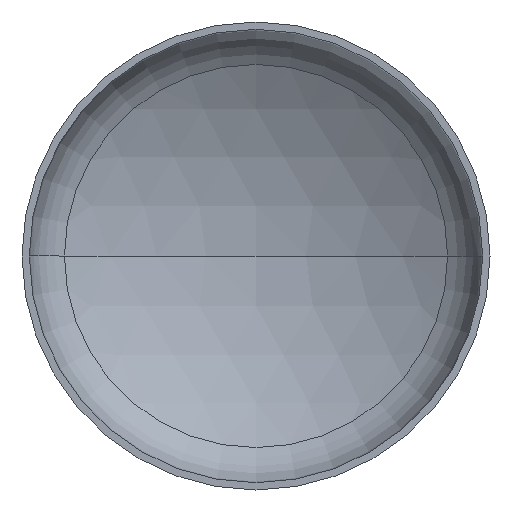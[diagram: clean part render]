
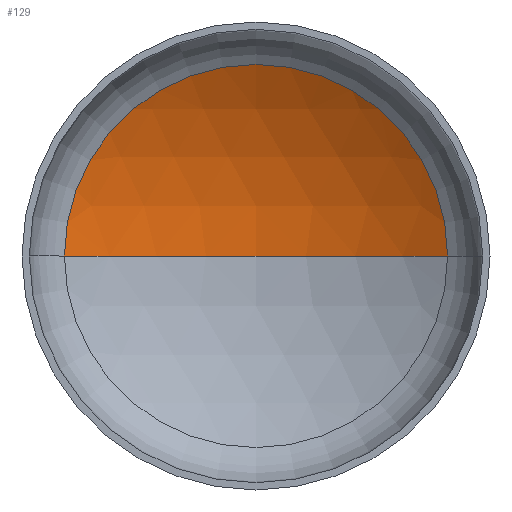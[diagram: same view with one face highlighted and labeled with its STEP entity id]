
A CAD part, front view. The second image highlights one B-rep face of the part: STEP entity #129.
In plain terms, the highlighted spherical face has radius 406 mm.
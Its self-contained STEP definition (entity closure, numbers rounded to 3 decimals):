
#12 = ORIENTED_EDGE ( 'NONE', *, *, #248, .F. ) ;
#28 = AXIS2_PLACEMENT_3D ( 'NONE', #57, #34, #60 ) ;
#34 = DIRECTION ( 'NONE',  ( 0., -1., 0. ) ) ;
#36 = CARTESIAN_POINT ( 'NONE',  ( 207.951, 91.992, 0. ) ) ;
#52 = AXIS2_PLACEMENT_3D ( 'NONE', #118, #342, #213 ) ;
#57 = CARTESIAN_POINT ( 'NONE',  ( 0., 91.992, 0. ) ) ;
#60 = DIRECTION ( 'NONE',  ( 1., 0., 0. ) ) ;
#80 = AXIS2_PLACEMENT_3D ( 'NONE', #283, #328, #269 ) ;
#105 = CARTESIAN_POINT ( 'NONE',  ( 0., 149.291, 0. ) ) ;
#114 = CIRCLE ( 'NONE', #52, 406. ) ;
#117 = CARTESIAN_POINT ( 'NONE',  ( 0., -256.709, 0. ) ) ;
#118 = CARTESIAN_POINT ( 'NONE',  ( 0., -256.709, 0. ) ) ;
#129 = ADVANCED_FACE ( 'NONE', ( #167 ), #409, .F. ) ;
#132 = CIRCLE ( 'NONE', #233, 406. ) ;
#167 = FACE_OUTER_BOUND ( 'NONE', #383, .T. ) ;
#213 = DIRECTION ( 'NONE',  ( -1., 0., 0. ) ) ;
#215 = VERTEX_POINT ( 'NONE', #36 ) ;
#233 = AXIS2_PLACEMENT_3D ( 'NONE', #117, #387, #403 ) ;
#248 = EDGE_CURVE ( 'NONE', #291, #319, #132, .T. ) ;
#269 = DIRECTION ( 'NONE',  ( -1., 0., 0. ) ) ;
#270 = CIRCLE ( 'NONE', #28, 207.951 ) ;
#283 = CARTESIAN_POINT ( 'NONE',  ( 0., -256.709, 0. ) ) ;
#291 = VERTEX_POINT ( 'NONE', #105 ) ;
#302 = ORIENTED_EDGE ( 'NONE', *, *, #343, .T. ) ;
#319 = VERTEX_POINT ( 'NONE', #326 ) ;
#326 = CARTESIAN_POINT ( 'NONE',  ( -207.951, 91.992, 0. ) ) ;
#328 = DIRECTION ( 'NONE',  ( 0., 0., -1. ) ) ;
#342 = DIRECTION ( 'NONE',  ( 0., 0., -1. ) ) ;
#343 = EDGE_CURVE ( 'NONE', #215, #319, #270, .T. ) ;
#346 = ORIENTED_EDGE ( 'NONE', *, *, #366, .T. ) ;
#366 = EDGE_CURVE ( 'NONE', #291, #215, #114, .T. ) ;
#383 = EDGE_LOOP ( 'NONE', ( #12, #346, #302 ) ) ;
#387 = DIRECTION ( 'NONE',  ( 0., 0., 1. ) ) ;
#403 = DIRECTION ( 'NONE',  ( 1., 0., 0. ) ) ;
#409 = SPHERICAL_SURFACE ( 'NONE', #80, 406. ) ;
